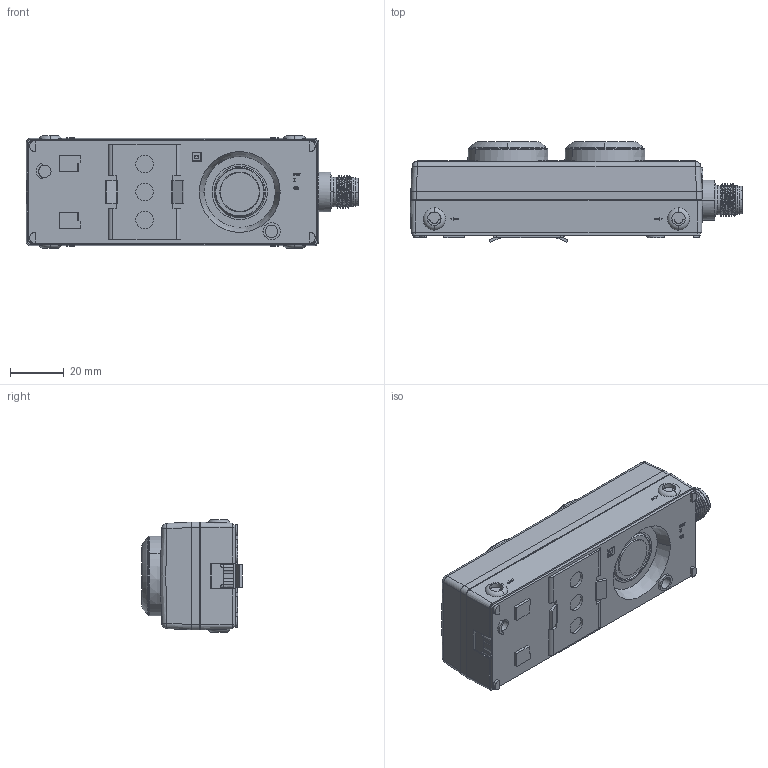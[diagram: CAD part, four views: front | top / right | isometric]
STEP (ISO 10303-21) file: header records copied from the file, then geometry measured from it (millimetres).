
FILE_DESCRIPTION((''),'2;1');
FILE_NAME('122392392_SCHRUMPF_-06','2016-03-14T',('u52610'),(''),'PRO/ENGINEER BY PARAMETRIC TECHNOLOGY CORPORATION, 2014430','PRO/ENGINEER BY PARAMETRIC TECHNOLOGY CORPORATION, 2014430','');
FILE_SCHEMA(('CONFIG_CONTROL_DESIGN'));
Length unit declared in the file: millimetre
Products named in the file (1): 122392392_SCHRUMPF_-06
Bounding box: 123.15 x 37.25 x 41.8 mm (x, y, z)
Volume: 123633.2 mm3; surface area: 21534.8 mm2
Topology: 1 solids, 1 shells, 931 faces, 2471 edges, 1621 vertices
Faces by surface type: plane 707, cylinder 120, cone 48, bspline 26, torus 26, sphere 4
Entity records: 42870 total; most frequent: CARTESIAN_POINT 12962, ORIENTED_EDGE 4942, DIRECTION 4553, EDGE_CURVE 2471, VECTOR 1969, LINE 1969, VERTEX_POINT 1621, AXIS2_PLACEMENT_3D 1292
